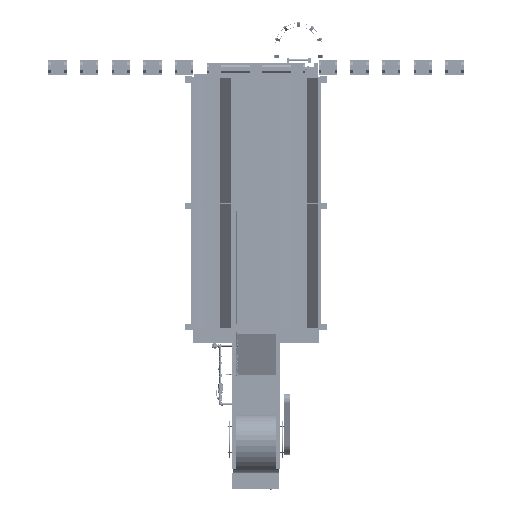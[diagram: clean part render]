
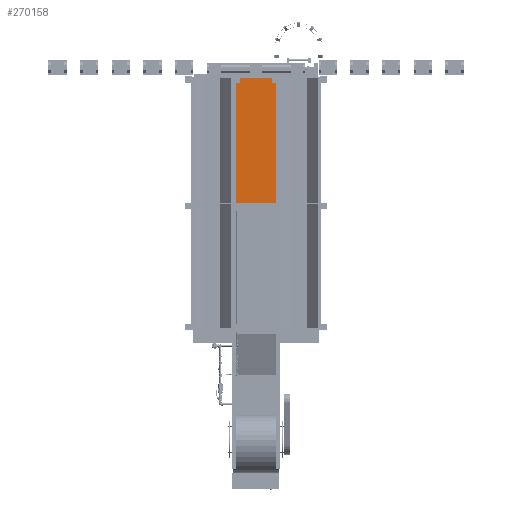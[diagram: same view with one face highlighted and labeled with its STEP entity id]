
A CAD part, front view. The second image highlights one B-rep face of the part: STEP entity #270158.
In plain terms, the highlighted planar face has unit normal (0, -1, 0) as drawn and (0, 0, -1) by its records, which use the part's own axes.
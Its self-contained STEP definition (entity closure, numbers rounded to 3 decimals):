
#42313=FACE_OUTER_BOUND('',#57866,.T.);
#57866=EDGE_LOOP('',(#184013,#184014,#184015,#184016));
#75240=LINE('',#383466,#96616);
#75243=LINE('',#383472,#96619);
#75309=LINE('',#383610,#96685);
#75310=LINE('',#383611,#96686);
#96616=VECTOR('',#312220,0.394);
#96619=VECTOR('',#312225,0.394);
#96685=VECTOR('',#312315,0.394);
#96686=VECTOR('',#312316,0.394);
#117905=VERTEX_POINT('',#383459);
#117908=VERTEX_POINT('',#383464);
#117909=VERTEX_POINT('',#383468);
#117970=VERTEX_POINT('',#383609);
#143573=EDGE_CURVE('',#117908,#117905,#75240,.T.);
#143576=EDGE_CURVE('',#117905,#117909,#75243,.T.);
#143642=EDGE_CURVE('',#117970,#117909,#75309,.T.);
#143643=EDGE_CURVE('',#117970,#117908,#75310,.T.);
#184013=ORIENTED_EDGE('',*,*,#143642,.T.);
#184014=ORIENTED_EDGE('',*,*,#143576,.F.);
#184015=ORIENTED_EDGE('',*,*,#143573,.F.);
#184016=ORIENTED_EDGE('',*,*,#143643,.F.);
#263481=PLANE('',#286969);
#270158=ADVANCED_FACE('',(#42313),#263481,.F.);
#286969=AXIS2_PLACEMENT_3D('',#383608,#312313,#312314);
#312220=DIRECTION('',(0.,-1.,0.));
#312225=DIRECTION('',(1.,0.,0.));
#312313=DIRECTION('center_axis',(0.,0.,1.));
#312314=DIRECTION('ref_axis',(1.,0.,0.));
#312315=DIRECTION('',(0.,-1.,0.));
#312316=DIRECTION('',(-1.,0.,0.));
#383459=CARTESIAN_POINT('',(-288.,-47.25,0.));
#383464=CARTESIAN_POINT('',(-288.,47.25,0.));
#383466=CARTESIAN_POINT('',(-288.,47.25,0.));
#383468=CARTESIAN_POINT('',(-192.004,-47.25,0.));
#383472=CARTESIAN_POINT('',(-288.,-47.25,0.));
#383608=CARTESIAN_POINT('Origin',(-144.,0.,0.));
#383609=CARTESIAN_POINT('',(-192.004,47.25,0.));
#383610=CARTESIAN_POINT('',(-192.004,2.638,0.));
#383611=CARTESIAN_POINT('',(0.,47.25,0.));
